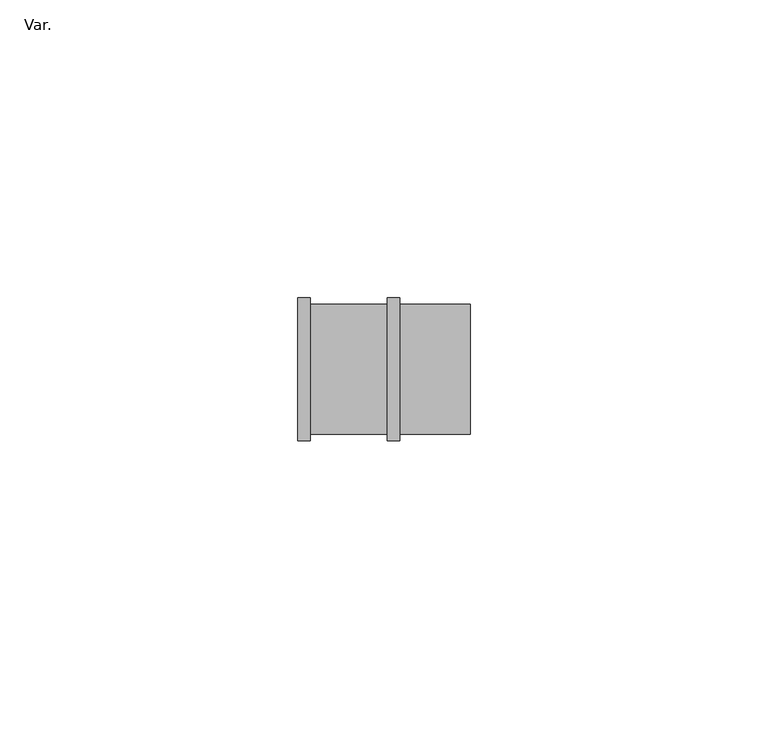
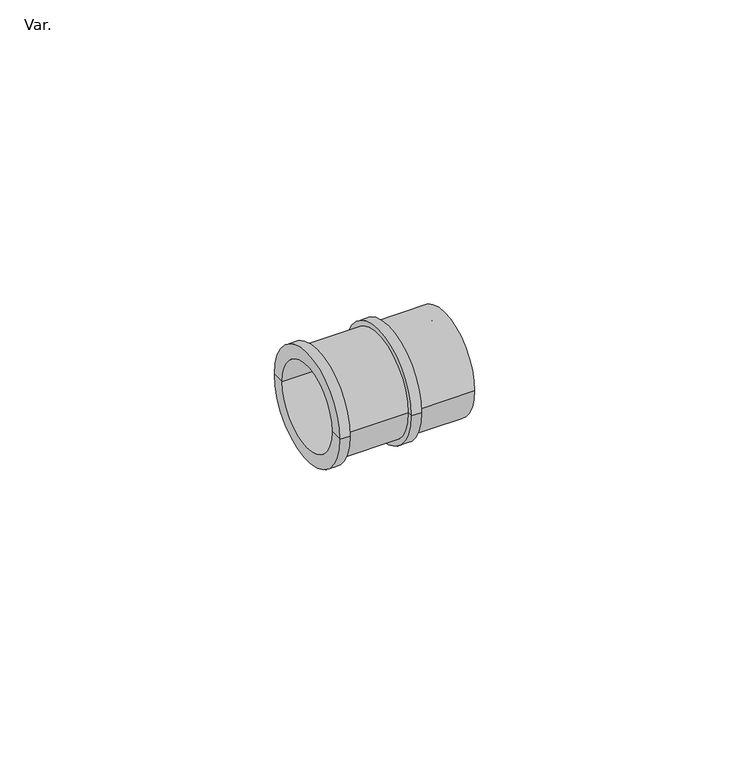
"""IFC4 building model written with IfcOpenShell, lengths in millimetres: cable carrier fitting geometry, PlastigamaWavin_Unionesdetubo_ConduitZNoUsarConector : Var.."""

from ifc_helpers import new_model, si_unit, frame, origin, place, context, project, spatial, polyline, circle_curve, source, transform, mapped, element, save
from ifc_brep_helpers import plane_surface, cylinder_surface, revolved_surface, advanced_brep


def var_3e088505(model_context):
    return source(origin(), model_context, "Body", "AdvancedBrep", [
        advanced_brep(
        [(1.05, -9.15, 0.0), (1.05, 9.15, 0.0), (-16.05, 9.15, 0.0), (-16.05, -9.15, 0.0), (1.05, -7.7, 0.0), (1.05, 7.7, 0.0), (12.85, -7.7, 0.0), (12.85, 7.7, 0.0), (12.85, -10.9, 0.0), (12.85, 10.9, 0.0), (1.05, -10.9, 0.0), (1.05, 10.9, 0.0), (1.05, -12.0, 0.0), (1.05, 12.0, 0.0), (-1.05, -12.0, 0.0), (-1.05, 12.0, 0.0), (-1.05, -10.9, 0.0), (-1.05, 10.9, 0.0), (-13.95, -10.9, 0.0), (-13.95, 10.9, 0.0), (-13.95, -12.0, 0.0), (-13.95, 12.0, 0.0), (-16.05, -12.0, 0.0), (-16.05, 12.0, 0.0)],
        [
            (0, 1, circle_curve(frame((1.05, 0.0, 0.0), z_axis=(1.0, 0.0, 0.0), x_axis=(0.0, 1.0, 0.0)), 9.15)),
            (1, 2),
            (2, 3, circle_curve(frame((-16.05, 0.0, 0.0), z_axis=(-1.0, 0.0, 0.0), x_axis=(0.0, 1.0, 0.0)), 9.15)),
            (3, 0),
            (1, 0, circle_curve(frame((1.05, 0.0, 0.0), z_axis=(1.0, 0.0, 0.0), x_axis=(0.0, 1.0, 0.0)), 9.15)),
            (3, 2, circle_curve(frame((-16.05, 0.0, 0.0), z_axis=(-1.0, 0.0, 0.0), x_axis=(0.0, 1.0, 0.0)), 9.15)),
            (4, 5, circle_curve(frame((1.05, 0.0, 0.0), z_axis=(1.0, 0.0, 0.0), x_axis=(0.0, 1.0, 0.0)), 7.7)),
            (5, 1),
            (0, 4),
            (5, 4, circle_curve(frame((1.05, 0.0, 0.0), z_axis=(1.0, 0.0, 0.0), x_axis=(0.0, 1.0, 0.0)), 7.7)),
            (6, 7, circle_curve(frame((12.85, 0.0, 0.0), z_axis=(1.0, 0.0, 0.0), x_axis=(0.0, 1.0, 0.0)), 7.7)),
            (7, 5),
            (4, 6),
            (7, 6, circle_curve(frame((12.85, 0.0, 0.0), z_axis=(1.0, 0.0, 0.0), x_axis=(0.0, 1.0, 0.0)), 7.7)),
            (8, 9, circle_curve(frame((12.85, 0.0, 0.0), z_axis=(1.0, 0.0, 0.0), x_axis=(0.0, 1.0, 0.0)), 10.9)),
            (9, 7),
            (6, 8),
            (9, 8, circle_curve(frame((12.85, 0.0, 0.0), z_axis=(1.0, 0.0, 0.0), x_axis=(0.0, 1.0, 0.0)), 10.9)),
            (10, 11, circle_curve(frame((1.05, 0.0, 0.0), z_axis=(1.0, 0.0, 0.0), x_axis=(0.0, 1.0, 0.0)), 10.9)),
            (11, 9),
            (8, 10),
            (11, 10, circle_curve(frame((1.05, 0.0, 0.0), z_axis=(1.0, 0.0, 0.0), x_axis=(0.0, 1.0, 0.0)), 10.9)),
            (12, 13, circle_curve(frame((1.05, 0.0, 0.0), z_axis=(1.0, 0.0, 0.0), x_axis=(0.0, 1.0, 0.0)), 12.0)),
            (13, 11),
            (10, 12),
            (13, 12, circle_curve(frame((1.05, 0.0, 0.0), z_axis=(1.0, 0.0, 0.0), x_axis=(0.0, 1.0, 0.0)), 12.0)),
            (14, 15, circle_curve(frame((-1.05, 0.0, 0.0), z_axis=(1.0, 0.0, 0.0), x_axis=(0.0, 1.0, 0.0)), 12.0)),
            (15, 13),
            (12, 14),
            (15, 14, circle_curve(frame((-1.05, 0.0, 0.0), z_axis=(1.0, 0.0, 0.0), x_axis=(0.0, 1.0, 0.0)), 12.0)),
            (16, 17, circle_curve(frame((-1.05, 0.0, 0.0), z_axis=(1.0, 0.0, 0.0), x_axis=(0.0, 1.0, 0.0)), 10.9)),
            (17, 15),
            (14, 16),
            (17, 16, circle_curve(frame((-1.05, 0.0, 0.0), z_axis=(1.0, 0.0, 0.0), x_axis=(0.0, 1.0, 0.0)), 10.9)),
            (18, 19, circle_curve(frame((-13.95, 0.0, 0.0), z_axis=(1.0, 0.0, 0.0), x_axis=(0.0, 1.0, 0.0)), 10.9)),
            (19, 17),
            (16, 18),
            (19, 18, circle_curve(frame((-13.95, 0.0, 0.0), z_axis=(1.0, 0.0, 0.0), x_axis=(0.0, 1.0, 0.0)), 10.9)),
            (20, 21, circle_curve(frame((-13.95, 0.0, 0.0), z_axis=(1.0, 0.0, 0.0), x_axis=(0.0, 1.0, 0.0)), 12.0)),
            (21, 19),
            (18, 20),
            (21, 20, circle_curve(frame((-13.95, 0.0, 0.0), z_axis=(1.0, 0.0, 0.0), x_axis=(0.0, 1.0, 0.0)), 12.0)),
            (22, 23, circle_curve(frame((-16.05, 0.0, 0.0), z_axis=(1.0, 0.0, 0.0), x_axis=(0.0, 1.0, 0.0)), 12.0)),
            (23, 21),
            (20, 22),
            (23, 22, circle_curve(frame((-16.05, 0.0, 0.0), z_axis=(1.0, 0.0, 0.0), x_axis=(0.0, 1.0, 0.0)), 12.0)),
            (2, 23),
            (22, 3),
        ],
        [
            revolved_surface(polyline([(-16.049999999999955, 9.15, 0.0), (1.0499999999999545, 9.15, 0.0)]), (2000.0, 0.0, 0.0), (-1.0, 0.0, 0.0)),
            plane_surface(frame((1.05, 0.0, 0.0), z_axis=(-1.0, 0.0, 0.0), x_axis=(0.0, 1.0, 0.0))),
            revolved_surface(polyline([(1.0499999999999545, 7.7, 0.0), (12.849999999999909, 7.7, 0.0)]), (2000.0, 0.0, 0.0), (-1.0, 0.0, 0.0)),
            plane_surface(frame((12.85, 0.0, 0.0), z_axis=(1.0, 0.0, 0.0), x_axis=(0.0, 1.0, 0.0))),
            cylinder_surface(frame((2000.0, 0.0, 0.0), z_axis=(-1.0, 0.0, 0.0), x_axis=(0.0, 1.0, 0.0)), 10.9),
            plane_surface(frame((1.05, 0.0, 0.0), z_axis=(1.0, 0.0, 0.0), x_axis=(0.0, 1.0, 0.0))),
            cylinder_surface(frame((2000.0, 0.0, 0.0), z_axis=(-1.0, 0.0, 0.0), x_axis=(0.0, 1.0, 0.0)), 12.0),
            plane_surface(frame((-1.05, 0.0, 0.0), z_axis=(-1.0, 0.0, 0.0), x_axis=(0.0, 1.0, 0.0))),
            plane_surface(frame((-13.95, 0.0, 0.0), z_axis=(1.0, 0.0, 0.0), x_axis=(0.0, 1.0, 0.0))),
            plane_surface(frame((-16.05, 0.0, 0.0), z_axis=(-1.0, 0.0, 0.0), x_axis=(0.0, 1.0, 0.0))),
        ],
        [
            (0, [[1, 2, 3, 4]]),
            (0, [[5, -4, 6, -2]]),
            (1, [[7, 8, -1, 9]]),
            (1, [[10, -9, -5, -8]]),
            (2, [[11, 12, -7, 13]]),
            (2, [[14, -13, -10, -12]]),
            (3, [[15, 16, -11, 17]]),
            (3, [[18, -17, -14, -16]]),
            (4, [[19, 20, -15, 21]]),
            (4, [[22, -21, -18, -20]]),
            (5, [[23, 24, -19, 25]]),
            (5, [[26, -25, -22, -24]]),
            (6, [[27, 28, -23, 29]]),
            (6, [[30, -29, -26, -28]]),
            (7, [[31, 32, -27, 33]]),
            (7, [[34, -33, -30, -32]]),
            (4, [[35, 36, -31, 37]]),
            (4, [[38, -37, -34, -36]]),
            (8, [[39, 40, -35, 41]]),
            (8, [[42, -41, -38, -40]]),
            (6, [[43, 44, -39, 45]]),
            (6, [[46, -45, -42, -44]]),
            (9, [[-3, 47, -43, 48]]),
            (9, [[-6, -48, -46, -47]]),
        ],
    ),
    ])


if __name__ == "__main__":
    model = new_model("IFC4")
    model_context = context("Model", 3, world=origin())
    ifc_project = project(units=[si_unit("LENGTHUNIT", "METRE", prefix="MILLI")], contexts=[model_context])
    site = spatial("IfcSite", under=ifc_project)
    building = spatial("IfcBuilding", under=site)
    placement = place(None, origin())
    var_shape = var_3e088505(model_context)
    element("IfcCableCarrierFitting", 1, ObjectType="PlastigamaWavin_Unionesdetubo_ConduitZNoUsarConector : Var.", at=placement, inside=building, context=model_context, shape_type="MappedRepresentation", body=[
        mapped(var_shape, transform((0.0, 0.0, 0.0), x_axis=(1.0, 0.0, 0.0), y_axis=(0.0, 1.0, 0.0), z_axis=(0.0, 0.0, 1.0))),
    ])
    save(model, "model.ifc")
